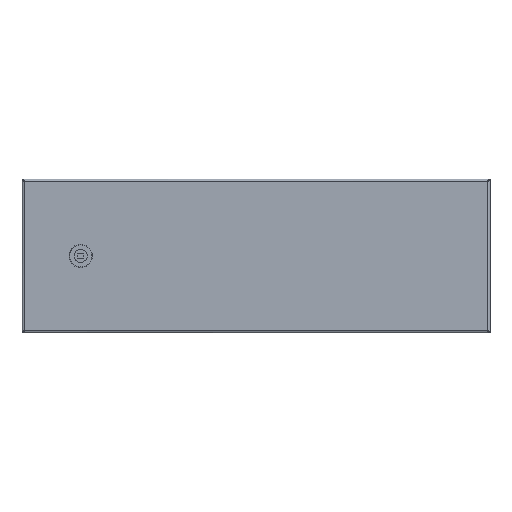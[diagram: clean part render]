
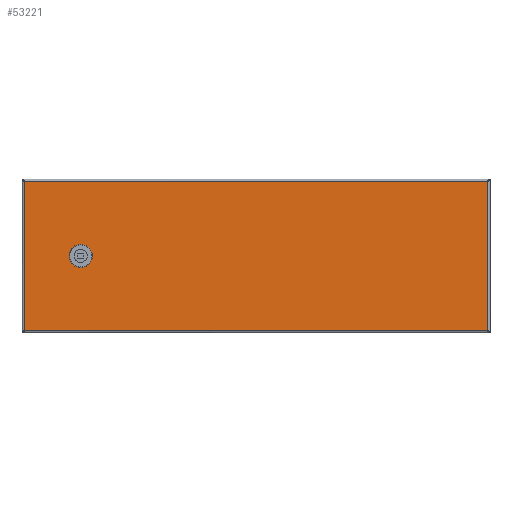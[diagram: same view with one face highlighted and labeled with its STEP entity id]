
A CAD part, top view. The second image highlights one B-rep face of the part: STEP entity #53221.
In plain terms, the highlighted planar face has unit normal (0, 0, 1).
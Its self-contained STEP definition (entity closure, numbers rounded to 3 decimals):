
#50871=CARTESIAN_POINT(' ',(591.2,192.2,0.));
#50876=DIRECTION(' ',(-1.,0.,0.));
#50881=VECTOR(' ',#50876,1.);
#50886=LINE('',#50871,#50881);
#50891=CARTESIAN_POINT(' ',(591.2,192.2,0.));
#50892=VERTEX_POINT(' ',#50891);
#50896=CARTESIAN_POINT(' ',(2.8,192.2,0.));
#50897=VERTEX_POINT(' ',#50896);
#50901=EDGE_CURVE(' ',#50892,#50897,#50886,.T.);
#53081=DIRECTION(' ',(-0.,-0.,1.));
#53086=CARTESIAN_POINT(' ',(591.2,2.8,0.));
#53091=DIRECTION(' ',(0.,1.,0.));
#53096=AXIS2_PLACEMENT_3D(' ',#53086,#53081,#53091);
#53101=PLANE('NONE',#53096);
#53106=CARTESIAN_POINT(' ',(2.8,2.8,0.));
#53111=DIRECTION(' ',(1.,0.,0.));
#53116=VECTOR(' ',#53111,1.);
#53121=LINE('',#53106,#53116);
#53126=CARTESIAN_POINT(' ',(2.8,2.8,0.));
#53127=VERTEX_POINT(' ',#53126);
#53131=CARTESIAN_POINT(' ',(591.2,2.8,0.));
#53132=VERTEX_POINT(' ',#53131);
#53136=EDGE_CURVE(' ',#53127,#53132,#53121,.T.);
#53141=ORIENTED_EDGE(' ',*,*,#53136,.T.);
#53146=CARTESIAN_POINT(' ',(591.2,192.2,0.));
#53151=DIRECTION(' ',(0.,-1.,0.));
#53156=VECTOR(' ',#53151,1.);
#53161=LINE('',#53146,#53156);
#53166=EDGE_CURVE(' ',#50892,#53132,#53161,.T.);
#53171=ORIENTED_EDGE(' ',*,*,#53166,.F.);
#53176=ORIENTED_EDGE(' ',*,*,#50901,.T.);
#53181=CARTESIAN_POINT(' ',(2.8,192.2,0.));
#53186=DIRECTION(' ',(0.,-1.,0.));
#53191=VECTOR(' ',#53186,1.);
#53196=LINE('',#53181,#53191);
#53201=EDGE_CURVE(' ',#50897,#53127,#53196,.T.);
#53206=ORIENTED_EDGE(' ',*,*,#53201,.T.);
#53211=EDGE_LOOP(' ',(#53141,#53171,#53176,#53206));
#53216=FACE_OUTER_BOUND(' ',#53211,.T.);
#53221=ADVANCED_FACE('NONE',(#53216),#53101,.T.);
